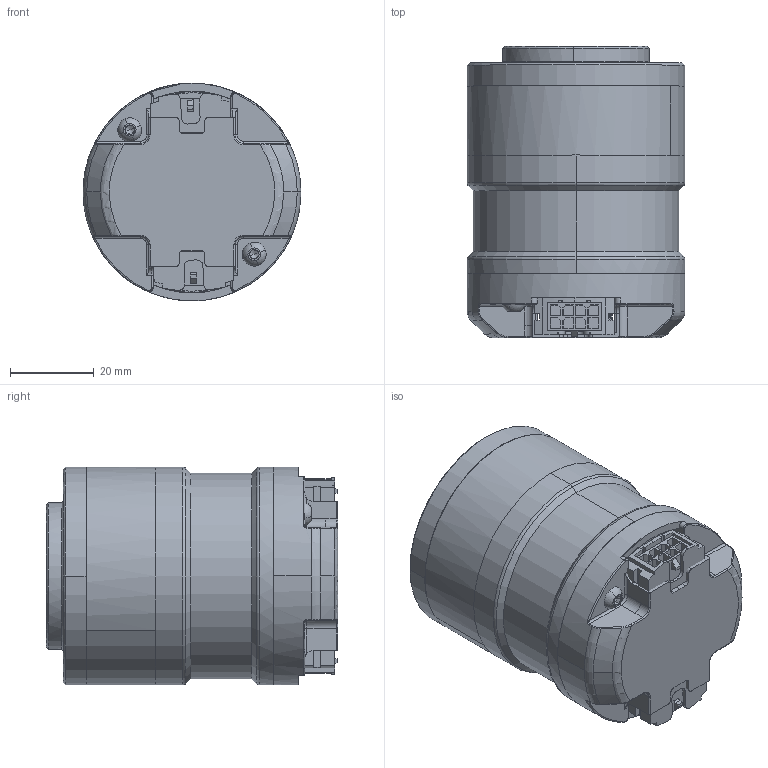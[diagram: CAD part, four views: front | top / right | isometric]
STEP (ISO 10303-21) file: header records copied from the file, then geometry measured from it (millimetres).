
FILE_DESCRIPTION (( 'STEP AP214' ), '1' );
FILE_NAME ('QDD-NE30-36_2_2.STEP', '2019-08-12T10:51:27', ( 'Microsoft' ), ( 'Microsoft' ), 'SwSTEP 2.0', 'SolidWorks 2018', '' );
FILE_SCHEMA (( 'AUTOMOTIVE_DESIGN' ));
Length unit declared in the file: millimetre
Products named in the file (1): QDD-NE30-36_2_2
Bounding box: 52 x 69.57 x 52 mm (x, y, z)
Volume: 116322.1 mm3; surface area: 47060.6 mm2
Topology: 19 solids, 19 shells, 1846 faces, 4585 edges, 2791 vertices
Faces by surface type: plane 962, cylinder 355, torus 202, bspline 160, cone 151, sphere 16
Entity records: 82874 total; most frequent: CARTESIAN_POINT 20640, ORIENTED_EDGE 9042, DIRECTION 8037, EDGE_CURVE 4521, VERTEX_POINT 2791, VECTOR 2715, LINE 2715, AXIS2_PLACEMENT_3D 2661
